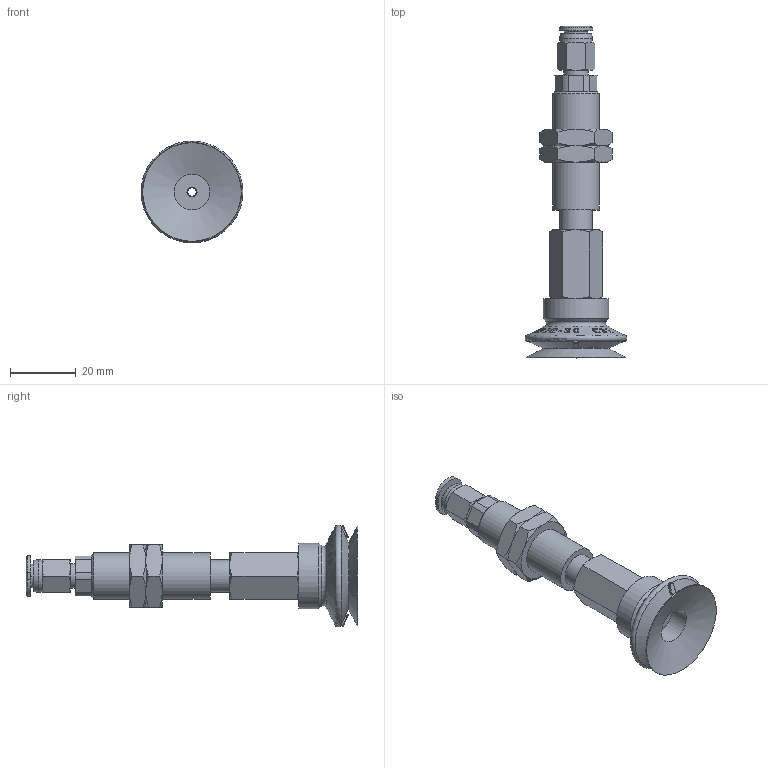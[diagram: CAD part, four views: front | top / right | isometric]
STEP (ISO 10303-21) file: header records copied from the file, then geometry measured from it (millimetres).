
FILE_DESCRIPTION(('STEP AP214'),'1');
FILE_NAME('-O.stp','2026-01-21T05:05:42',(' '),(' '),'Spatial InterOp 3D',' ',' ');
FILE_SCHEMA(('AUTOMOTIVE_DESIGN { 1 0 10303 214 1 1 1 1 }'));
Length unit declared in the file: millimetre
Products named in the file (8): BNABPJTS-30-6-※-O; Adapter-30-NAPJ; NUT-NAPJ-30-6-s; NAPJTS-30-6-FBODY; BPJG-30-※; NAPJTS-30-6-MBODY; ADAPTER; PC-C_06-M5
Assembly tree (8 placements, depth 2):
  BNABPJTS-30-6-※-O
    Adapter-30-NAPJ
    NUT-NAPJ-30-6-s  x2
    NAPJTS-30-6-FBODY
    BPJG-30-※
    NAPJTS-30-6-MBODY
    ADAPTER
    PC-C_06-M5
Bounding box: 30.99 x 100.98 x 30.99 mm (x, y, z)
Volume: 17350.3 mm3; surface area: 13637.7 mm2
Topology: 7 solids, 10 shells, 821 faces, 2244 edges, 1469 vertices
Faces by surface type: plane 684, cone 83, cylinder 38, torus 9, bspline 4, revolution 3
Full cylindrical faces by diameter (mm): 3 x3, 4 x2, 4.134 x1, 4.917 x1, 5 x1, 5.8 x1, 6 x1, 7 x1, 7.4 x1, 8.2 x1, 10 x3, 10.8 x1, 11 x1, 13.188 x2, 14 x1, 20 x1
Entity records: 32732 total; most frequent: CARTESIAN_POINT 8229, ORIENTED_EDGE 4286, DIRECTION 2772, EDGE_CURVE 2145, VERTEX_POINT 1434, B_SPLINE_CURVE_WITH_KNOTS 1093, AXIS2_PLACEMENT_3D 939, LINE 891
